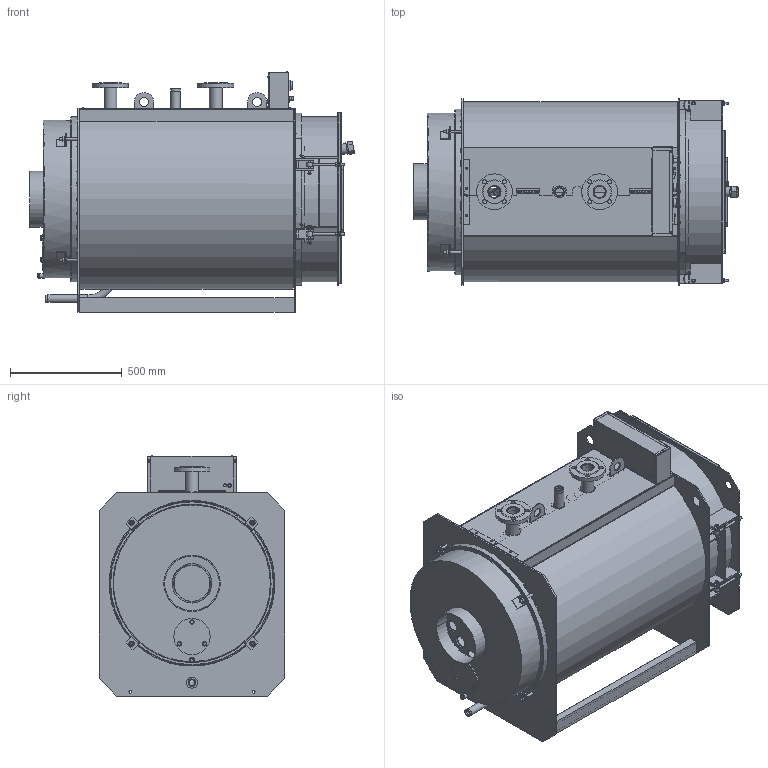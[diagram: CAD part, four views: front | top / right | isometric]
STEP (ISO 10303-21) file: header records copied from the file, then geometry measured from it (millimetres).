
FILE_DESCRIPTION(('STEP AP242'), '1');
FILE_NAME('TITAN Prom 4 (200 êÂò)', '', ('UNSPECIFIED'), ('UNSPECIFIED'), 'ASCON STEP Converter 1.6', 'ASCON Math Kernel', '');
FILE_SCHEMA(('AP242_MANAGED_MODEL_BASED_3D_ENGINEERING_MIM_LF { 1 0 10303 442 1 1 4 }'));
Length unit declared in the file: millimetre
Bounding box: 1450.29 x 830 x 1073.16 mm (x, y, z)
Volume: 82772960.4 mm3; surface area: 14888717.3 mm2
Topology: 34 solids, 34 shells, 3039 faces, 7576 edges, 4837 vertices
Faces by surface type: plane 1885, cylinder 853, cone 193, bspline 64, torus 29, extrusion 9, sphere 6
Full cylindrical faces by diameter (mm): 2 x4, 2.8 x27, 3 x1, 3.2 x4, 3.5 x8, 3.6 x4, 4 x12, 4.1 x2, 4.5 x12, 4.8 x1, 5 x15, 6 x5, 7 x2, 7.6 x1, 8 x3, 9 x2, 9.25 x4, 9.5 x8, 9.728 x1, 10 x30, 10.106 x5, 10.5 x1, 11 x16, 12 x20, 13 x13, 13.5 x4, 14 x8, 14.5 x1, 15 x3, 15.7 x1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
Entity records: 167933 total; most frequent: CARTESIAN_POINT 73201, ORIENTED_EDGE 14006, DIRECTION 13810, EDGE_CURVE 7003, AXIS2_PLACEMENT_3D 4871, VERTEX_POINT 4821, EDGE_LOOP 4206, VECTOR 4068
